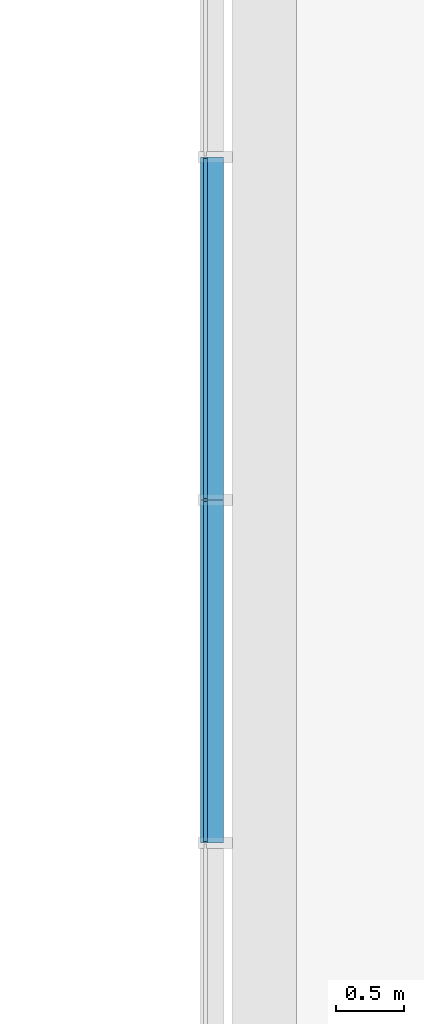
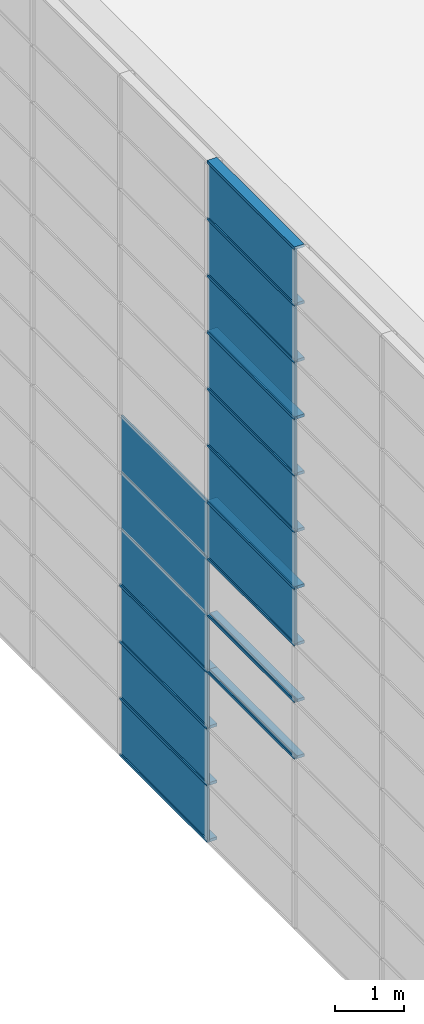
# One storey, part 13 of 105: 29 building element parts, 4 elements without a shape of their own.
"""IFC4 building model written with IfcOpenShell, lengths in millimetres."""

from ifc_helpers import new_model, entity, si_unit, converted_unit, derived_unit, direction, frame, origin_with_axes, place, context, subcontext, project, spatial, triangles, material, element, aggregate, save


model = new_model("IFC4")

# Units and contexts
model_context = context("Model", 3, precision=1e-05, world=origin_with_axes(), true_north=direction((0.0, 1.0)))
body_context = subcontext(model_context, "Body", "Model", "MODEL_VIEW")
ifc_project = project(units=[si_unit("LENGTHUNIT", "METRE", prefix="MILLI"), si_unit("AREAUNIT", "SQUARE_METRE"), si_unit("VOLUMEUNIT", "CUBIC_METRE"), converted_unit("PLANEANGLEUNIT", "DEGREE", entity("IfcLengthMeasure", 0.017453), si_unit("PLANEANGLEUNIT", "RADIAN"), dimensions=[0, 0, 0, 0, 0, 0, 0]), si_unit("SOLIDANGLEUNIT", "STERADIAN"), si_unit("MASSUNIT", "GRAM"), si_unit("TIMEUNIT", "SECOND"), si_unit("THERMODYNAMICTEMPERATUREUNIT", "DEGREE_CELSIUS"), si_unit("LUMINOUSINTENSITYUNIT", "LUMEN"), si_unit("POWERUNIT", "WATT"), derived_unit("THERMALTRANSMITTANCEUNIT", [(si_unit("POWERUNIT", "WATT"), 1), (si_unit("THERMODYNAMICTEMPERATUREUNIT", "KELVIN"), -1), (si_unit("AREAUNIT", "SQUARE_METRE"), -1)])], contexts=[model_context])

# Site, building, storey
site_placement = place(None, origin_with_axes())
site = spatial("IfcSite", under=ifc_project, at=site_placement, Name="Default Site", CompositionType="ELEMENT")
building_placement = place(site_placement, origin_with_axes())
building = spatial("IfcBuilding", under=site, at=building_placement, Name="Default Building", CompositionType="ELEMENT")
storey_placement = place(building_placement, origin_with_axes())
storey = spatial("IfcBuildingStorey", under=building, at=storey_placement, Name="OG - Story", CompositionType="ELEMENT", Elevation=0.0)

# Curtain wall, building element parts
curtain_wall_1_placement = place(storey_placement, origin_with_axes())
curtain_wall_1 = element("IfcCurtainWall", 1, at=curtain_wall_1_placement, inside=storey, Name="Fassade-003", PredefinedType="NOTDEFINED")
ifc_material_1 = material(Name="Normalglas")
building_element_part_1_placement = place(curtain_wall_1_placement, frame((31551.391327, -51326.104944, 0.0), z_axis=(0.0, 0.0, 1.0), x_axis=(1.0, 0.0, 0.0)))
building_element_part_1 = element("IfcBuildingElementPart", 2, at=building_element_part_1_placement, material=ifc_material_1, Name="Normalglas", PredefinedType="NOTDEFINED", context=body_context, shape_type="Tessellation", body=[
    triangles([(15.0, 21463.684, 995.0), (-14.999, 21463.684, 995.0), (-14.999, 18957.368, 995.0), (15.0, 18957.368, 995.0), (15.0, 21463.684, 5.0), (-14.999, 21463.684, 5.0), (-14.999, 18957.368, 5.0), (15.0, 18957.368, 5.0)], [[1, 2, 3], [1, 3, 4], [5, 6, 2], [5, 2, 1], [2, 6, 7], [2, 7, 3], [4, 3, 7], [4, 7, 8], [1, 4, 8], [1, 8, 5], [8, 7, 6], [8, 6, 5]], closed=False),
])
building_element_part_2_placement = place(curtain_wall_1_placement, frame((31551.391327, -51326.104944, 0.0), z_axis=(0.0, 0.0, 1.0), x_axis=(1.0, 0.0, 0.0)))
building_element_part_2 = element("IfcBuildingElementPart", 3, at=building_element_part_2_placement, material=ifc_material_1, Name="Normalglas", PredefinedType="NOTDEFINED", context=body_context, shape_type="Tessellation", body=[
    triangles([(15.0, 21463.684, 1995.0), (-14.999, 21463.684, 1995.0), (-14.999, 18957.368, 1995.0), (15.0, 18957.368, 1995.0), (15.0, 21463.684, 1005.0), (-14.999, 21463.684, 1005.0), (-14.999, 18957.368, 1005.0), (15.0, 18957.368, 1005.0)], [[1, 2, 3], [1, 3, 4], [5, 6, 2], [5, 2, 1], [2, 6, 7], [2, 7, 3], [4, 3, 7], [4, 7, 8], [1, 4, 8], [1, 8, 5], [8, 7, 6], [8, 6, 5]], closed=False),
])
building_element_part_3_placement = place(curtain_wall_1_placement, frame((31551.391327, -51326.104944, 0.0), z_axis=(0.0, 0.0, 1.0), x_axis=(1.0, 0.0, 0.0)))
building_element_part_3 = element("IfcBuildingElementPart", 4, at=building_element_part_3_placement, material=ifc_material_1, Name="Normalglas", PredefinedType="NOTDEFINED", context=body_context, shape_type="Tessellation", body=[
    triangles([(15.0, 21463.684, 2995.0), (-14.999, 21463.684, 2995.0), (-14.999, 18957.368, 2995.0), (15.0, 18957.368, 2995.0), (15.0, 21463.684, 2005.0), (-14.999, 21463.684, 2005.0), (-14.999, 18957.368, 2005.0), (15.0, 18957.368, 2005.0)], [[1, 2, 3], [1, 3, 4], [5, 6, 2], [5, 2, 1], [2, 6, 7], [2, 7, 3], [4, 3, 7], [4, 7, 8], [1, 4, 8], [1, 8, 5], [8, 7, 6], [8, 6, 5]], closed=False),
])
ifc_material_2 = material(Name="Blech")
building_element_part_4_placement = place(curtain_wall_1_placement, frame((31551.391327, -51326.104944, 0.0), z_axis=(0.0, 0.0, 1.0), x_axis=(1.0, 0.0, 0.0)))
building_element_part_4 = element("IfcBuildingElementPart", 5, at=building_element_part_4_placement, material=ifc_material_2, Name="Blech", PredefinedType="NOTDEFINED", context=body_context, shape_type="Tessellation", body=[
    triangles([(15.0, 21473.684, 25.0), (133.0, 21473.684, 25.0), (15.0, 21473.684, 5.0), (133.0, 21473.684, -24.999), (-14.999, 21473.684, 5.0), (-34.999, 21473.684, -24.999), (-34.999, 21473.684, 25.0), (-14.999, 21473.684, 25.0), (15.0, 18947.368, 5.0), (15.0, 18947.368, 25.0), (133.0, 18947.368, 25.0), (133.0, 18947.368, -24.999), (-34.999, 18947.368, -24.999), (-34.999, 18947.368, 25.0), (-14.999, 18947.368, 25.0), (-14.999, 18947.368, 5.0)], [[1, 2, 3], [3, 2, 4], [3, 4, 5], [5, 4, 6], [5, 6, 7], [5, 7, 8], [3, 9, 10], [3, 10, 1], [10, 11, 2], [10, 2, 1], [11, 12, 4], [11, 4, 2], [12, 13, 6], [12, 6, 4], [13, 14, 7], [13, 7, 6], [8, 7, 14], [8, 14, 15], [15, 16, 5], [15, 5, 8], [5, 16, 9], [5, 9, 3], [16, 9, 12], [16, 12, 13], [16, 13, 14], [16, 14, 15], [11, 12, 9], [11, 9, 10]], closed=False),
])
building_element_part_5_placement = place(curtain_wall_1_placement, frame((31551.391327, -51326.104944, 0.0), z_axis=(0.0, 0.0, 1.0), x_axis=(1.0, 0.0, 0.0)))
building_element_part_5 = element("IfcBuildingElementPart", 6, at=building_element_part_5_placement, material=ifc_material_2, Name="Blech", PredefinedType="NOTDEFINED", context=body_context, shape_type="Tessellation", body=[
    triangles([(-14.999, 21473.684, 1025.0), (-34.999, 21473.684, 1025.0), (-14.999, 21473.684, 1005.0), (-14.999, 21473.684, 995.0), (15.0, 21473.684, 1005.0), (133.0, 21473.684, 1025.0), (15.0, 21473.684, 1025.0), (-34.999, 21473.684, 975.0), (-14.999, 21473.684, 975.0), (15.0, 21473.684, 995.0), (15.0, 21473.684, 975.0), (133.0, 21473.684, 975.0), (15.0, 18947.368, 995.0), (-14.999, 18947.368, 995.0), (-14.999, 18947.368, 975.0), (-34.999, 18947.368, 975.0), (-34.999, 18947.368, 1025.0), (-14.999, 18947.368, 1025.0), (-14.999, 18947.368, 1005.0), (15.0, 18947.368, 1005.0), (15.0, 18947.368, 1025.0), (133.0, 18947.368, 1025.0), (133.0, 18947.368, 975.0), (15.0, 18947.368, 975.0)], [[1, 2, 3], [3, 2, 4], [3, 4, 5], [5, 4, 6], [5, 6, 7], [8, 9, 4], [8, 4, 2], [6, 4, 10], [6, 10, 11], [6, 11, 12], [10, 13, 14], [10, 14, 4], [4, 14, 15], [4, 15, 9], [15, 16, 8], [15, 8, 9], [8, 16, 17], [8, 17, 2], [18, 1, 2], [18, 2, 17], [1, 18, 19], [1, 19, 3], [5, 3, 19], [5, 19, 20], [7, 5, 20], [7, 20, 21], [7, 21, 22], [7, 22, 6], [6, 22, 23], [6, 23, 12], [11, 12, 23], [11, 23, 24], [11, 24, 13], [11, 13, 10], [21, 22, 20], [20, 22, 13], [20, 13, 19], [19, 13, 14], [19, 14, 17], [17, 14, 15], [17, 15, 16], [23, 24, 13], [23, 13, 22], [19, 17, 18]], closed=False),
])
building_element_part_6_placement = place(curtain_wall_1_placement, frame((31551.391327, -51326.104944, 0.0), z_axis=(0.0, 0.0, 1.0), x_axis=(1.0, 0.0, 0.0)))
building_element_part_6 = element("IfcBuildingElementPart", 7, at=building_element_part_6_placement, material=ifc_material_2, Name="Blech", PredefinedType="NOTDEFINED", context=body_context, shape_type="Tessellation", body=[
    triangles([(-14.999, 21473.684, 2025.0), (-34.999, 21473.684, 2025.0), (-14.999, 21473.684, 2005.0), (-14.999, 21473.684, 1995.0), (15.0, 21473.684, 2005.0), (133.0, 21473.684, 2025.0), (15.0, 21473.684, 2025.0), (-34.999, 21473.684, 1975.0), (-14.999, 21473.684, 1975.0), (15.0, 21473.684, 1995.0), (15.0, 21473.684, 1975.0), (133.0, 21473.684, 1975.0), (15.0, 18947.368, 1995.0), (-14.999, 18947.368, 1995.0), (-14.999, 18947.368, 1975.0), (-34.999, 18947.368, 1975.0), (-34.999, 18947.368, 2025.0), (-14.999, 18947.368, 2025.0), (-14.999, 18947.368, 2005.0), (15.0, 18947.368, 2005.0), (15.0, 18947.368, 2025.0), (133.0, 18947.368, 2025.0), (133.0, 18947.368, 1975.0), (15.0, 18947.368, 1975.0)], [[1, 2, 3], [3, 2, 4], [3, 4, 5], [5, 4, 6], [5, 6, 7], [8, 9, 4], [8, 4, 2], [6, 4, 10], [6, 10, 11], [6, 11, 12], [10, 13, 14], [10, 14, 4], [4, 14, 15], [4, 15, 9], [15, 16, 8], [15, 8, 9], [8, 16, 17], [8, 17, 2], [18, 1, 2], [18, 2, 17], [1, 18, 19], [1, 19, 3], [5, 3, 19], [5, 19, 20], [7, 5, 20], [7, 20, 21], [7, 21, 22], [7, 22, 6], [6, 22, 23], [6, 23, 12], [11, 12, 23], [11, 23, 24], [11, 24, 13], [11, 13, 10], [21, 22, 20], [20, 22, 13], [20, 13, 19], [19, 13, 14], [19, 14, 17], [17, 14, 15], [17, 15, 16], [23, 24, 13], [23, 13, 22], [19, 17, 18]], closed=False),
])
building_element_part_7_placement = place(curtain_wall_1_placement, frame((31551.391327, -51326.104944, 0.0), z_axis=(0.0, 0.0, 1.0), x_axis=(1.0, 0.0, 0.0)))
building_element_part_7 = element("IfcBuildingElementPart", 8, at=building_element_part_7_placement, material=ifc_material_2, Name="Blech", PredefinedType="NOTDEFINED", context=body_context, shape_type="Tessellation", body=[
    triangles([(-14.999, 21473.684, 2995.0), (15.0, 21473.684, 2995.0), (133.0, 21473.684, 3025.0), (-34.999, 21473.684, 3025.0), (-34.999, 21473.684, 2975.0), (-14.999, 21473.684, 2975.0), (15.0, 21473.684, 2975.0), (133.0, 21473.684, 2975.0), (15.0, 18947.368, 2995.0), (-14.999, 18947.368, 2995.0), (-14.999, 18947.368, 2975.0), (-34.999, 18947.368, 2975.0), (-34.999, 18947.368, 3025.0), (133.0, 18947.368, 3025.0), (133.0, 18947.368, 2975.0), (15.0, 18947.368, 2975.0)], [[1, 2, 3], [1, 3, 4], [1, 4, 5], [1, 5, 6], [7, 8, 3], [7, 3, 2], [1, 2, 9], [1, 9, 10], [11, 6, 1], [11, 1, 10], [6, 11, 12], [6, 12, 5], [13, 4, 5], [13, 5, 12], [14, 3, 4], [14, 4, 13], [15, 8, 3], [15, 3, 14], [16, 7, 8], [16, 8, 15], [2, 7, 16], [2, 16, 9], [10, 9, 14], [10, 14, 13], [10, 13, 12], [10, 12, 11], [16, 15, 14], [16, 14, 9]], closed=False),
])
aggregate(curtain_wall_1, [building_element_part_1, building_element_part_2, building_element_part_3, building_element_part_4, building_element_part_5, building_element_part_6, building_element_part_7])

curtain_wall_2_placement = place(storey_placement, origin_with_axes())
curtain_wall_2 = element("IfcCurtainWall", 9, at=curtain_wall_2_placement, inside=storey, Name="Fassade-003", PredefinedType="NOTDEFINED")
building_element_part_8_placement = place(curtain_wall_2_placement, frame((31551.391327, -51326.104944, 3000.0), z_axis=(0.0, 0.0, 1.0), x_axis=(1.0, 0.0, 0.0)))
building_element_part_8 = element("IfcBuildingElementPart", 10, at=building_element_part_8_placement, material=ifc_material_1, Name="Normalglas", PredefinedType="NOTDEFINED", context=body_context, shape_type="Tessellation", body=[
    triangles([(15.0, 21463.684, 995.0), (-14.999, 21463.684, 995.0), (-14.999, 18957.368, 995.0), (15.0, 18957.368, 995.0), (15.0, 21463.684, 5.0), (-14.999, 21463.684, 5.0), (-14.999, 18957.368, 5.0), (15.0, 18957.368, 5.0)], [[1, 2, 3], [1, 3, 4], [5, 6, 2], [5, 2, 1], [2, 6, 7], [2, 7, 3], [4, 3, 7], [4, 7, 8], [1, 4, 8], [1, 8, 5], [8, 7, 6], [8, 6, 5]], closed=False),
])
building_element_part_9_placement = place(curtain_wall_2_placement, frame((31551.391327, -51326.104944, 3000.0), z_axis=(0.0, 0.0, 1.0), x_axis=(1.0, 0.0, 0.0)))
building_element_part_9 = element("IfcBuildingElementPart", 11, at=building_element_part_9_placement, material=ifc_material_1, Name="Normalglas", PredefinedType="NOTDEFINED", context=body_context, shape_type="Tessellation", body=[
    triangles([(15.0, 21463.684, 1995.0), (-14.999, 21463.684, 1995.0), (-14.999, 18957.368, 1995.0), (15.0, 18957.368, 1995.0), (15.0, 21463.684, 1005.0), (-14.999, 21463.684, 1005.0), (-14.999, 18957.368, 1005.0), (15.0, 18957.368, 1005.0)], [[1, 2, 3], [1, 3, 4], [5, 6, 2], [5, 2, 1], [2, 6, 7], [2, 7, 3], [4, 3, 7], [4, 7, 8], [1, 4, 8], [1, 8, 5], [8, 7, 6], [8, 6, 5]], closed=False),
])
building_element_part_10_placement = place(curtain_wall_2_placement, frame((31551.391327, -51326.104944, 3000.0), z_axis=(0.0, 0.0, 1.0), x_axis=(1.0, 0.0, 0.0)))
building_element_part_10 = element("IfcBuildingElementPart", 12, at=building_element_part_10_placement, material=ifc_material_1, Name="Normalglas", PredefinedType="NOTDEFINED", context=body_context, shape_type="Tessellation", body=[
    triangles([(15.0, 18937.368, 2995.0), (-14.999, 18937.368, 2995.0), (-14.999, 16431.053, 2995.0), (15.0, 16431.053, 2995.0), (15.0, 18937.368, 2005.0), (-14.999, 18937.368, 2005.0), (-14.999, 16431.053, 2005.0), (15.0, 16431.053, 2005.0)], [[1, 2, 3], [1, 3, 4], [5, 6, 2], [5, 2, 1], [2, 6, 7], [2, 7, 3], [4, 3, 7], [4, 7, 8], [1, 4, 8], [1, 8, 5], [8, 7, 6], [8, 6, 5]], closed=False),
])
building_element_part_11_placement = place(curtain_wall_2_placement, frame((31551.391327, -51326.104944, 3000.0), z_axis=(0.0, 0.0, 1.0), x_axis=(1.0, 0.0, 0.0)))
building_element_part_11 = element("IfcBuildingElementPart", 13, at=building_element_part_11_placement, material=ifc_material_1, Name="Normalglas", PredefinedType="NOTDEFINED", context=body_context, shape_type="Tessellation", body=[
    triangles([(15.0, 21463.684, 2995.0), (-14.999, 21463.684, 2995.0), (-14.999, 18957.368, 2995.0), (15.0, 18957.368, 2995.0), (15.0, 21463.684, 2005.0), (-14.999, 21463.684, 2005.0), (-14.999, 18957.368, 2005.0), (15.0, 18957.368, 2005.0)], [[1, 2, 3], [1, 3, 4], [5, 6, 2], [5, 2, 1], [2, 6, 7], [2, 7, 3], [4, 3, 7], [4, 7, 8], [1, 4, 8], [1, 8, 5], [8, 7, 6], [8, 6, 5]], closed=False),
])
building_element_part_12_placement = place(curtain_wall_2_placement, frame((31551.391327, -51326.104944, 3000.0), z_axis=(0.0, 0.0, 1.0), x_axis=(1.0, 0.0, 0.0)))
building_element_part_12 = element("IfcBuildingElementPart", 14, at=building_element_part_12_placement, material=ifc_material_2, Name="Blech", PredefinedType="NOTDEFINED", context=body_context, shape_type="Tessellation", body=[
    triangles([(15.0, 18947.368, 25.0), (133.0, 18947.368, 25.0), (15.0, 18947.368, 5.0), (133.0, 18947.368, -24.999), (-14.999, 18947.368, 5.0), (-34.999, 18947.368, -24.999), (-34.999, 18947.368, 25.0), (-14.999, 18947.368, 25.0), (15.0, 16421.053, 5.0), (15.0, 16421.053, 25.0), (133.0, 16421.053, 25.0), (133.0, 16421.053, -24.999), (-34.999, 16421.053, -24.999), (-34.999, 16421.053, 25.0), (-14.999, 16421.053, 25.0), (-14.999, 16421.053, 5.0)], [[1, 2, 3], [3, 2, 4], [3, 4, 5], [5, 4, 6], [5, 6, 7], [5, 7, 8], [3, 9, 10], [3, 10, 1], [10, 11, 2], [10, 2, 1], [11, 12, 4], [11, 4, 2], [12, 13, 6], [12, 6, 4], [13, 14, 7], [13, 7, 6], [8, 7, 14], [8, 14, 15], [15, 16, 5], [15, 5, 8], [5, 16, 9], [5, 9, 3], [16, 9, 12], [16, 12, 13], [16, 13, 14], [16, 14, 15], [11, 12, 9], [11, 9, 10]], closed=False),
])
building_element_part_13_placement = place(curtain_wall_2_placement, frame((31551.391327, -51326.104944, 3000.0), z_axis=(0.0, 0.0, 1.0), x_axis=(1.0, 0.0, 0.0)))
building_element_part_13 = element("IfcBuildingElementPart", 15, at=building_element_part_13_placement, material=ifc_material_2, Name="Blech", PredefinedType="NOTDEFINED", context=body_context, shape_type="Tessellation", body=[
    triangles([(-14.999, 18947.368, 1025.0), (-34.999, 18947.368, 1025.0), (-14.999, 18947.368, 1005.0), (-14.999, 18947.368, 995.0), (15.0, 18947.368, 1005.0), (133.0, 18947.368, 1025.0), (15.0, 18947.368, 1025.0), (-34.999, 18947.368, 975.0), (-14.999, 18947.368, 975.0), (15.0, 18947.368, 995.0), (15.0, 18947.368, 975.0), (133.0, 18947.368, 975.0), (15.0, 16421.053, 995.0), (-14.999, 16421.053, 995.0), (-14.999, 16421.053, 975.0), (-34.999, 16421.053, 975.0), (-34.999, 16421.053, 1025.0), (-14.999, 16421.053, 1025.0), (-14.999, 16421.053, 1005.0), (15.0, 16421.053, 1005.0), (15.0, 16421.053, 1025.0), (133.0, 16421.053, 1025.0), (133.0, 16421.053, 975.0), (15.0, 16421.053, 975.0)], [[1, 2, 3], [3, 2, 4], [3, 4, 5], [5, 4, 6], [5, 6, 7], [8, 9, 4], [8, 4, 2], [6, 4, 10], [6, 10, 11], [6, 11, 12], [10, 13, 14], [10, 14, 4], [4, 14, 15], [4, 15, 9], [15, 16, 8], [15, 8, 9], [8, 16, 17], [8, 17, 2], [18, 1, 2], [18, 2, 17], [1, 18, 19], [1, 19, 3], [5, 3, 19], [5, 19, 20], [7, 5, 20], [7, 20, 21], [7, 21, 22], [7, 22, 6], [6, 22, 23], [6, 23, 12], [11, 12, 23], [11, 23, 24], [11, 24, 13], [11, 13, 10], [21, 22, 20], [20, 22, 13], [20, 13, 19], [19, 13, 14], [19, 14, 17], [17, 14, 15], [17, 15, 16], [23, 24, 13], [23, 13, 22], [19, 17, 18]], closed=False),
])
building_element_part_14_placement = place(curtain_wall_2_placement, frame((31551.391327, -51326.104944, 3000.0), z_axis=(0.0, 0.0, 1.0), x_axis=(1.0, 0.0, 0.0)))
building_element_part_14 = element("IfcBuildingElementPart", 16, at=building_element_part_14_placement, material=ifc_material_2, Name="Blech", PredefinedType="NOTDEFINED", context=body_context, shape_type="Tessellation", body=[
    triangles([(-14.999, 18947.368, 2025.0), (-34.999, 18947.368, 2025.0), (-14.999, 18947.368, 2005.0), (-14.999, 18947.368, 1995.0), (15.0, 18947.368, 2005.0), (133.0, 18947.368, 2025.0), (15.0, 18947.368, 2025.0), (-34.999, 18947.368, 1975.0), (-14.999, 18947.368, 1975.0), (15.0, 18947.368, 1995.0), (15.0, 18947.368, 1975.0), (133.0, 18947.368, 1975.0), (15.0, 16421.053, 1995.0), (-14.999, 16421.053, 1995.0), (-14.999, 16421.053, 1975.0), (-34.999, 16421.053, 1975.0), (-34.999, 16421.053, 2025.0), (-14.999, 16421.053, 2025.0), (-14.999, 16421.053, 2005.0), (15.0, 16421.053, 2005.0), (15.0, 16421.053, 2025.0), (133.0, 16421.053, 2025.0), (133.0, 16421.053, 1975.0), (15.0, 16421.053, 1975.0)], [[1, 2, 3], [3, 2, 4], [3, 4, 5], [5, 4, 6], [5, 6, 7], [8, 9, 4], [8, 4, 2], [6, 4, 10], [6, 10, 11], [6, 11, 12], [10, 13, 14], [10, 14, 4], [4, 14, 15], [4, 15, 9], [15, 16, 8], [15, 8, 9], [8, 16, 17], [8, 17, 2], [18, 1, 2], [18, 2, 17], [1, 18, 19], [1, 19, 3], [5, 3, 19], [5, 19, 20], [7, 5, 20], [7, 20, 21], [7, 21, 22], [7, 22, 6], [6, 22, 23], [6, 23, 12], [11, 12, 23], [11, 23, 24], [11, 24, 13], [11, 13, 10], [21, 22, 20], [20, 22, 13], [20, 13, 19], [19, 13, 14], [19, 14, 17], [17, 14, 15], [17, 15, 16], [23, 24, 13], [23, 13, 22], [19, 17, 18]], closed=False),
])
building_element_part_15_placement = place(curtain_wall_2_placement, frame((31551.391327, -51326.104944, 3000.0), z_axis=(0.0, 0.0, 1.0), x_axis=(1.0, 0.0, 0.0)))
building_element_part_15 = element("IfcBuildingElementPart", 17, at=building_element_part_15_placement, material=ifc_material_2, Name="Blech", PredefinedType="NOTDEFINED", context=body_context, shape_type="Tessellation", body=[
    triangles([(-14.999, 18947.368, 2995.0), (15.0, 18947.368, 2995.0), (133.0, 18947.368, 3025.0), (-34.999, 18947.368, 3025.0), (-34.999, 18947.368, 2975.0), (-14.999, 18947.368, 2975.0), (15.0, 18947.368, 2975.0), (133.0, 18947.368, 2975.0), (15.0, 16421.053, 2995.0), (-14.999, 16421.053, 2995.0), (-14.999, 16421.053, 2975.0), (-34.999, 16421.053, 2975.0), (-34.999, 16421.053, 3025.0), (133.0, 16421.053, 3025.0), (133.0, 16421.053, 2975.0), (15.0, 16421.053, 2975.0)], [[1, 2, 3], [1, 3, 4], [1, 4, 5], [1, 5, 6], [7, 8, 3], [7, 3, 2], [1, 2, 9], [1, 9, 10], [11, 6, 1], [11, 1, 10], [6, 11, 12], [6, 12, 5], [13, 4, 5], [13, 5, 12], [14, 3, 4], [14, 4, 13], [15, 8, 3], [15, 3, 14], [16, 7, 8], [16, 8, 15], [2, 7, 16], [2, 16, 9], [10, 9, 14], [10, 14, 13], [10, 13, 12], [10, 12, 11], [16, 15, 14], [16, 14, 9]], closed=False),
])
aggregate(curtain_wall_2, [building_element_part_8, building_element_part_9, building_element_part_10, building_element_part_11, building_element_part_12, building_element_part_13, building_element_part_14, building_element_part_15])

curtain_wall_3_placement = place(storey_placement, origin_with_axes())
curtain_wall_3 = element("IfcCurtainWall", 18, at=curtain_wall_3_placement, inside=storey, Name="Fassade-003", PredefinedType="NOTDEFINED")
building_element_part_16_placement = place(curtain_wall_3_placement, frame((31551.391327, -51326.104944, 6000.0), z_axis=(0.0, 0.0, 1.0), x_axis=(1.0, 0.0, 0.0)))
building_element_part_16 = element("IfcBuildingElementPart", 19, at=building_element_part_16_placement, material=ifc_material_1, Name="Normalglas", PredefinedType="NOTDEFINED", context=body_context, shape_type="Tessellation", body=[
    triangles([(15.0, 18937.368, 995.0), (-14.999, 18937.368, 995.0), (-14.999, 16431.053, 995.0), (15.0, 16431.053, 995.0), (15.0, 18937.368, 5.0), (-14.999, 18937.368, 5.0), (-14.999, 16431.053, 5.0), (15.0, 16431.053, 5.0)], [[1, 2, 3], [1, 3, 4], [5, 6, 2], [5, 2, 1], [2, 6, 7], [2, 7, 3], [4, 3, 7], [4, 7, 8], [1, 4, 8], [1, 8, 5], [8, 7, 6], [8, 6, 5]], closed=False),
])
building_element_part_17_placement = place(curtain_wall_3_placement, frame((31551.391327, -51326.104944, 6000.0), z_axis=(0.0, 0.0, 1.0), x_axis=(1.0, 0.0, 0.0)))
building_element_part_17 = element("IfcBuildingElementPart", 20, at=building_element_part_17_placement, material=ifc_material_1, Name="Normalglas", PredefinedType="NOTDEFINED", context=body_context, shape_type="Tessellation", body=[
    triangles([(15.0, 18937.368, 1995.0), (-14.999, 18937.368, 1995.0), (-14.999, 16431.053, 1995.0), (15.0, 16431.053, 1995.0), (15.0, 18937.368, 1005.0), (-14.999, 18937.368, 1005.0), (-14.999, 16431.053, 1005.0), (15.0, 16431.053, 1005.0)], [[1, 2, 3], [1, 3, 4], [5, 6, 2], [5, 2, 1], [2, 6, 7], [2, 7, 3], [4, 3, 7], [4, 7, 8], [1, 4, 8], [1, 8, 5], [8, 7, 6], [8, 6, 5]], closed=False),
])
building_element_part_18_placement = place(curtain_wall_3_placement, frame((31551.391327, -51326.104944, 6000.0), z_axis=(0.0, 0.0, 1.0), x_axis=(1.0, 0.0, 0.0)))
building_element_part_18 = element("IfcBuildingElementPart", 21, at=building_element_part_18_placement, material=ifc_material_1, Name="Normalglas", PredefinedType="NOTDEFINED", context=body_context, shape_type="Tessellation", body=[
    triangles([(15.0, 18937.368, 2995.0), (-14.999, 18937.368, 2995.0), (-14.999, 16431.053, 2995.0), (15.0, 16431.053, 2995.0), (15.0, 18937.368, 2005.0), (-14.999, 18937.368, 2005.0), (-14.999, 16431.053, 2005.0), (15.0, 16431.053, 2005.0)], [[1, 2, 3], [1, 3, 4], [5, 6, 2], [5, 2, 1], [2, 6, 7], [2, 7, 3], [4, 3, 7], [4, 7, 8], [1, 4, 8], [1, 8, 5], [8, 7, 6], [8, 6, 5]], closed=False),
])
building_element_part_19_placement = place(curtain_wall_3_placement, frame((31551.391327, -51326.104944, 6000.0), z_axis=(0.0, 0.0, 1.0), x_axis=(1.0, 0.0, 0.0)))
building_element_part_19 = element("IfcBuildingElementPart", 22, at=building_element_part_19_placement, material=ifc_material_2, Name="Blech", PredefinedType="NOTDEFINED", context=body_context, shape_type="Tessellation", body=[
    triangles([(15.0, 18947.368, 25.0), (133.0, 18947.368, 25.0), (15.0, 18947.368, 5.0), (133.0, 18947.368, -24.999), (-14.999, 18947.368, 5.0), (-34.999, 18947.368, -24.999), (-34.999, 18947.368, 25.0), (-14.999, 18947.368, 25.0), (15.0, 16421.053, 5.0), (15.0, 16421.053, 25.0), (133.0, 16421.053, 25.0), (133.0, 16421.053, -24.999), (-34.999, 16421.053, -24.999), (-34.999, 16421.053, 25.0), (-14.999, 16421.053, 25.0), (-14.999, 16421.053, 5.0)], [[1, 2, 3], [3, 2, 4], [3, 4, 5], [5, 4, 6], [5, 6, 7], [5, 7, 8], [3, 9, 10], [3, 10, 1], [10, 11, 2], [10, 2, 1], [11, 12, 4], [11, 4, 2], [12, 13, 6], [12, 6, 4], [13, 14, 7], [13, 7, 6], [8, 7, 14], [8, 14, 15], [15, 16, 5], [15, 5, 8], [5, 16, 9], [5, 9, 3], [16, 9, 12], [16, 12, 13], [16, 13, 14], [16, 14, 15], [11, 12, 9], [11, 9, 10]], closed=False),
])
building_element_part_20_placement = place(curtain_wall_3_placement, frame((31551.391327, -51326.104944, 6000.0), z_axis=(0.0, 0.0, 1.0), x_axis=(1.0, 0.0, 0.0)))
building_element_part_20 = element("IfcBuildingElementPart", 23, at=building_element_part_20_placement, material=ifc_material_2, Name="Blech", PredefinedType="NOTDEFINED", context=body_context, shape_type="Tessellation", body=[
    triangles([(-14.999, 18947.368, 1025.0), (-34.999, 18947.368, 1025.0), (-14.999, 18947.368, 1005.0), (-14.999, 18947.368, 995.0), (15.0, 18947.368, 1005.0), (133.0, 18947.368, 1025.0), (15.0, 18947.368, 1025.0), (-34.999, 18947.368, 975.0), (-14.999, 18947.368, 975.0), (15.0, 18947.368, 995.0), (15.0, 18947.368, 975.0), (133.0, 18947.368, 975.0), (15.0, 16421.053, 995.0), (-14.999, 16421.053, 995.0), (-14.999, 16421.053, 975.0), (-34.999, 16421.053, 975.0), (-34.999, 16421.053, 1025.0), (-14.999, 16421.053, 1025.0), (-14.999, 16421.053, 1005.0), (15.0, 16421.053, 1005.0), (15.0, 16421.053, 1025.0), (133.0, 16421.053, 1025.0), (133.0, 16421.053, 975.0), (15.0, 16421.053, 975.0)], [[1, 2, 3], [3, 2, 4], [3, 4, 5], [5, 4, 6], [5, 6, 7], [8, 9, 4], [8, 4, 2], [6, 4, 10], [6, 10, 11], [6, 11, 12], [10, 13, 14], [10, 14, 4], [4, 14, 15], [4, 15, 9], [15, 16, 8], [15, 8, 9], [8, 16, 17], [8, 17, 2], [18, 1, 2], [18, 2, 17], [1, 18, 19], [1, 19, 3], [5, 3, 19], [5, 19, 20], [7, 5, 20], [7, 20, 21], [7, 21, 22], [7, 22, 6], [6, 22, 23], [6, 23, 12], [11, 12, 23], [11, 23, 24], [11, 24, 13], [11, 13, 10], [21, 22, 20], [20, 22, 13], [20, 13, 19], [19, 13, 14], [19, 14, 17], [17, 14, 15], [17, 15, 16], [23, 24, 13], [23, 13, 22], [19, 17, 18]], closed=False),
])
building_element_part_21_placement = place(curtain_wall_3_placement, frame((31551.391327, -51326.104944, 6000.0), z_axis=(0.0, 0.0, 1.0), x_axis=(1.0, 0.0, 0.0)))
building_element_part_21 = element("IfcBuildingElementPart", 24, at=building_element_part_21_placement, material=ifc_material_2, Name="Blech", PredefinedType="NOTDEFINED", context=body_context, shape_type="Tessellation", body=[
    triangles([(-14.999, 18947.368, 2025.0), (-34.999, 18947.368, 2025.0), (-14.999, 18947.368, 2005.0), (-14.999, 18947.368, 1995.0), (15.0, 18947.368, 2005.0), (133.0, 18947.368, 2025.0), (15.0, 18947.368, 2025.0), (-34.999, 18947.368, 1975.0), (-14.999, 18947.368, 1975.0), (15.0, 18947.368, 1995.0), (15.0, 18947.368, 1975.0), (133.0, 18947.368, 1975.0), (15.0, 16421.053, 1995.0), (-14.999, 16421.053, 1995.0), (-14.999, 16421.053, 1975.0), (-34.999, 16421.053, 1975.0), (-34.999, 16421.053, 2025.0), (-14.999, 16421.053, 2025.0), (-14.999, 16421.053, 2005.0), (15.0, 16421.053, 2005.0), (15.0, 16421.053, 2025.0), (133.0, 16421.053, 2025.0), (133.0, 16421.053, 1975.0), (15.0, 16421.053, 1975.0)], [[1, 2, 3], [3, 2, 4], [3, 4, 5], [5, 4, 6], [5, 6, 7], [8, 9, 4], [8, 4, 2], [6, 4, 10], [6, 10, 11], [6, 11, 12], [10, 13, 14], [10, 14, 4], [4, 14, 15], [4, 15, 9], [15, 16, 8], [15, 8, 9], [8, 16, 17], [8, 17, 2], [18, 1, 2], [18, 2, 17], [1, 18, 19], [1, 19, 3], [5, 3, 19], [5, 19, 20], [7, 5, 20], [7, 20, 21], [7, 21, 22], [7, 22, 6], [6, 22, 23], [6, 23, 12], [11, 12, 23], [11, 23, 24], [11, 24, 13], [11, 13, 10], [21, 22, 20], [20, 22, 13], [20, 13, 19], [19, 13, 14], [19, 14, 17], [17, 14, 15], [17, 15, 16], [23, 24, 13], [23, 13, 22], [19, 17, 18]], closed=False),
])
building_element_part_22_placement = place(curtain_wall_3_placement, frame((31551.391327, -51326.104944, 6000.0), z_axis=(0.0, 0.0, 1.0), x_axis=(1.0, 0.0, 0.0)))
building_element_part_22 = element("IfcBuildingElementPart", 25, at=building_element_part_22_placement, material=ifc_material_2, Name="Blech", PredefinedType="NOTDEFINED", context=body_context, shape_type="Tessellation", body=[
    triangles([(-14.999, 18947.368, 2995.0), (15.0, 18947.368, 2995.0), (133.0, 18947.368, 3025.0), (-34.999, 18947.368, 3025.0), (-34.999, 18947.368, 2975.0), (-14.999, 18947.368, 2975.0), (15.0, 18947.368, 2975.0), (133.0, 18947.368, 2975.0), (15.0, 16421.053, 2995.0), (-14.999, 16421.053, 2995.0), (-14.999, 16421.053, 2975.0), (-34.999, 16421.053, 2975.0), (-34.999, 16421.053, 3025.0), (133.0, 16421.053, 3025.0), (133.0, 16421.053, 2975.0), (15.0, 16421.053, 2975.0)], [[1, 2, 3], [1, 3, 4], [1, 4, 5], [1, 5, 6], [7, 8, 3], [7, 3, 2], [1, 2, 9], [1, 9, 10], [11, 6, 1], [11, 1, 10], [6, 11, 12], [6, 12, 5], [13, 4, 5], [13, 5, 12], [14, 3, 4], [14, 4, 13], [15, 8, 3], [15, 3, 14], [16, 7, 8], [16, 8, 15], [2, 7, 16], [2, 16, 9], [10, 9, 14], [10, 14, 13], [10, 13, 12], [10, 12, 11], [16, 15, 14], [16, 14, 9]], closed=False),
])
aggregate(curtain_wall_3, [building_element_part_16, building_element_part_17, building_element_part_18, building_element_part_19, building_element_part_20, building_element_part_21, building_element_part_22])

curtain_wall_4_placement = place(storey_placement, origin_with_axes())
curtain_wall_4 = element("IfcCurtainWall", 26, at=curtain_wall_4_placement, inside=storey, Name="Fassade-003", PredefinedType="NOTDEFINED")
building_element_part_23_placement = place(curtain_wall_4_placement, frame((31551.391327, -51326.104944, 9000.0), z_axis=(0.0, 0.0, 1.0), x_axis=(1.0, 0.0, 0.0)))
building_element_part_23 = element("IfcBuildingElementPart", 27, at=building_element_part_23_placement, material=ifc_material_1, Name="Normalglas", PredefinedType="NOTDEFINED", context=body_context, shape_type="Tessellation", body=[
    triangles([(15.0, 18937.368, 995.0), (-14.999, 18937.368, 995.0), (-14.999, 16431.053, 995.0), (15.0, 16431.053, 995.0), (15.0, 18937.368, 5.0), (-14.999, 18937.368, 5.0), (-14.999, 16431.053, 5.0), (15.0, 16431.053, 5.0)], [[1, 2, 3], [1, 3, 4], [5, 6, 2], [5, 2, 1], [2, 6, 7], [2, 7, 3], [4, 3, 7], [4, 7, 8], [1, 4, 8], [1, 8, 5], [8, 7, 6], [8, 6, 5]], closed=False),
])
building_element_part_24_placement = place(curtain_wall_4_placement, frame((31551.391327, -51326.104944, 9000.0), z_axis=(0.0, 0.0, 1.0), x_axis=(1.0, 0.0, 0.0)))
building_element_part_24 = element("IfcBuildingElementPart", 28, at=building_element_part_24_placement, material=ifc_material_1, Name="Normalglas", PredefinedType="NOTDEFINED", context=body_context, shape_type="Tessellation", body=[
    triangles([(15.0, 18937.368, 1995.0), (-14.999, 18937.368, 1995.0), (-14.999, 16431.053, 1995.0), (15.0, 16431.053, 1995.0), (15.0, 18937.368, 1005.0), (-14.999, 18937.368, 1005.0), (-14.999, 16431.053, 1005.0), (15.0, 16431.053, 1005.0)], [[1, 2, 3], [1, 3, 4], [5, 6, 2], [5, 2, 1], [2, 6, 7], [2, 7, 3], [4, 3, 7], [4, 7, 8], [1, 4, 8], [1, 8, 5], [8, 7, 6], [8, 6, 5]], closed=False),
])
building_element_part_25_placement = place(curtain_wall_4_placement, frame((31551.391327, -51326.104944, 9000.0), z_axis=(0.0, 0.0, 1.0), x_axis=(1.0, 0.0, 0.0)))
building_element_part_25 = element("IfcBuildingElementPart", 29, at=building_element_part_25_placement, material=ifc_material_1, Name="Normalglas", PredefinedType="NOTDEFINED", context=body_context, shape_type="Tessellation", body=[
    triangles([(15.0, 18937.368, 2995.0), (-14.999, 18937.368, 2995.0), (-14.999, 16431.053, 2995.0), (15.0, 16431.053, 2995.0), (15.0, 18937.368, 2005.0), (-14.999, 18937.368, 2005.0), (-14.999, 16431.053, 2005.0), (15.0, 16431.053, 2005.0)], [[1, 2, 3], [1, 3, 4], [5, 6, 2], [5, 2, 1], [2, 6, 7], [2, 7, 3], [4, 3, 7], [4, 7, 8], [1, 4, 8], [1, 8, 5], [8, 7, 6], [8, 6, 5]], closed=False),
])
building_element_part_26_placement = place(curtain_wall_4_placement, frame((31551.391327, -51326.104944, 9000.0), z_axis=(0.0, 0.0, 1.0), x_axis=(1.0, 0.0, 0.0)))
building_element_part_26 = element("IfcBuildingElementPart", 30, at=building_element_part_26_placement, material=ifc_material_2, Name="Blech", PredefinedType="NOTDEFINED", context=body_context, shape_type="Tessellation", body=[
    triangles([(15.0, 18947.368, 25.0), (133.0, 18947.368, 25.0), (15.0, 18947.368, 5.0), (133.0, 18947.368, -24.999), (-14.999, 18947.368, 5.0), (-34.999, 18947.368, -24.999), (-34.999, 18947.368, 25.0), (-14.999, 18947.368, 25.0), (15.0, 16421.053, 5.0), (15.0, 16421.053, 25.0), (133.0, 16421.053, 25.0), (133.0, 16421.053, -24.999), (-34.999, 16421.053, -24.999), (-34.999, 16421.053, 25.0), (-14.999, 16421.053, 25.0), (-14.999, 16421.053, 5.0)], [[1, 2, 3], [3, 2, 4], [3, 4, 5], [5, 4, 6], [5, 6, 7], [5, 7, 8], [3, 9, 10], [3, 10, 1], [10, 11, 2], [10, 2, 1], [11, 12, 4], [11, 4, 2], [12, 13, 6], [12, 6, 4], [13, 14, 7], [13, 7, 6], [8, 7, 14], [8, 14, 15], [15, 16, 5], [15, 5, 8], [5, 16, 9], [5, 9, 3], [16, 9, 12], [16, 12, 13], [16, 13, 14], [16, 14, 15], [11, 12, 9], [11, 9, 10]], closed=False),
])
building_element_part_27_placement = place(curtain_wall_4_placement, frame((31551.391327, -51326.104944, 9000.0), z_axis=(0.0, 0.0, 1.0), x_axis=(1.0, 0.0, 0.0)))
building_element_part_27 = element("IfcBuildingElementPart", 31, at=building_element_part_27_placement, material=ifc_material_2, Name="Blech", PredefinedType="NOTDEFINED", context=body_context, shape_type="Tessellation", body=[
    triangles([(-14.999, 18947.368, 1025.0), (-34.999, 18947.368, 1025.0), (-14.999, 18947.368, 1005.0), (-14.999, 18947.368, 995.0), (15.0, 18947.368, 1005.0), (133.0, 18947.368, 1025.0), (15.0, 18947.368, 1025.0), (-34.999, 18947.368, 975.0), (-14.999, 18947.368, 975.0), (15.0, 18947.368, 995.0), (15.0, 18947.368, 975.0), (133.0, 18947.368, 975.0), (15.0, 16421.053, 995.0), (-14.999, 16421.053, 995.0), (-14.999, 16421.053, 975.0), (-34.999, 16421.053, 975.0), (-34.999, 16421.053, 1025.0), (-14.999, 16421.053, 1025.0), (-14.999, 16421.053, 1005.0), (15.0, 16421.053, 1005.0), (15.0, 16421.053, 1025.0), (133.0, 16421.053, 1025.0), (133.0, 16421.053, 975.0), (15.0, 16421.053, 975.0)], [[1, 2, 3], [3, 2, 4], [3, 4, 5], [5, 4, 6], [5, 6, 7], [8, 9, 4], [8, 4, 2], [6, 4, 10], [6, 10, 11], [6, 11, 12], [10, 13, 14], [10, 14, 4], [4, 14, 15], [4, 15, 9], [15, 16, 8], [15, 8, 9], [8, 16, 17], [8, 17, 2], [18, 1, 2], [18, 2, 17], [1, 18, 19], [1, 19, 3], [5, 3, 19], [5, 19, 20], [7, 5, 20], [7, 20, 21], [7, 21, 22], [7, 22, 6], [6, 22, 23], [6, 23, 12], [11, 12, 23], [11, 23, 24], [11, 24, 13], [11, 13, 10], [21, 22, 20], [20, 22, 13], [20, 13, 19], [19, 13, 14], [19, 14, 17], [17, 14, 15], [17, 15, 16], [23, 24, 13], [23, 13, 22], [19, 17, 18]], closed=False),
])
building_element_part_28_placement = place(curtain_wall_4_placement, frame((31551.391327, -51326.104944, 9000.0), z_axis=(0.0, 0.0, 1.0), x_axis=(1.0, 0.0, 0.0)))
building_element_part_28 = element("IfcBuildingElementPart", 32, at=building_element_part_28_placement, material=ifc_material_2, Name="Blech", PredefinedType="NOTDEFINED", context=body_context, shape_type="Tessellation", body=[
    triangles([(-14.999, 18947.368, 2025.0), (-34.999, 18947.368, 2025.0), (-14.999, 18947.368, 2005.0), (-14.999, 18947.368, 1995.0), (15.0, 18947.368, 2005.0), (133.0, 18947.368, 2025.0), (15.0, 18947.368, 2025.0), (-34.999, 18947.368, 1975.0), (-14.999, 18947.368, 1975.0), (15.0, 18947.368, 1995.0), (15.0, 18947.368, 1975.0), (133.0, 18947.368, 1975.0), (15.0, 16421.053, 1995.0), (-14.999, 16421.053, 1995.0), (-14.999, 16421.053, 1975.0), (-34.999, 16421.053, 1975.0), (-34.999, 16421.053, 2025.0), (-14.999, 16421.053, 2025.0), (-14.999, 16421.053, 2005.0), (15.0, 16421.053, 2005.0), (15.0, 16421.053, 2025.0), (133.0, 16421.053, 2025.0), (133.0, 16421.053, 1975.0), (15.0, 16421.053, 1975.0)], [[1, 2, 3], [3, 2, 4], [3, 4, 5], [5, 4, 6], [5, 6, 7], [8, 9, 4], [8, 4, 2], [6, 4, 10], [6, 10, 11], [6, 11, 12], [10, 13, 14], [10, 14, 4], [4, 14, 15], [4, 15, 9], [15, 16, 8], [15, 8, 9], [8, 16, 17], [8, 17, 2], [18, 1, 2], [18, 2, 17], [1, 18, 19], [1, 19, 3], [5, 3, 19], [5, 19, 20], [7, 5, 20], [7, 20, 21], [7, 21, 22], [7, 22, 6], [6, 22, 23], [6, 23, 12], [11, 12, 23], [11, 23, 24], [11, 24, 13], [11, 13, 10], [21, 22, 20], [20, 22, 13], [20, 13, 19], [19, 13, 14], [19, 14, 17], [17, 14, 15], [17, 15, 16], [23, 24, 13], [23, 13, 22], [19, 17, 18]], closed=False),
])
building_element_part_29_placement = place(curtain_wall_4_placement, frame((31551.391327, -51326.104944, 9000.0), z_axis=(0.0, 0.0, 1.0), x_axis=(1.0, 0.0, 0.0)))
building_element_part_29 = element("IfcBuildingElementPart", 33, at=building_element_part_29_placement, material=ifc_material_2, Name="Blech", PredefinedType="NOTDEFINED", context=body_context, shape_type="Tessellation", body=[
    triangles([(-14.999, 18947.368, 2995.0), (15.0, 18947.368, 2995.0), (133.0, 18947.368, 3025.0), (-34.999, 18947.368, 3025.0), (-34.999, 18947.368, 2975.0), (-14.999, 18947.368, 2975.0), (15.0, 18947.368, 2975.0), (133.0, 18947.368, 2975.0), (15.0, 16421.053, 2995.0), (-14.999, 16421.053, 2995.0), (-14.999, 16421.053, 2975.0), (-34.999, 16421.053, 2975.0), (-34.999, 16421.053, 3025.0), (133.0, 16421.053, 3025.0), (133.0, 16421.053, 2975.0), (15.0, 16421.053, 2975.0)], [[1, 2, 3], [1, 3, 4], [1, 4, 5], [1, 5, 6], [7, 8, 3], [7, 3, 2], [1, 2, 9], [1, 9, 10], [11, 6, 1], [11, 1, 10], [6, 11, 12], [6, 12, 5], [13, 4, 5], [13, 5, 12], [14, 3, 4], [14, 4, 13], [15, 8, 3], [15, 3, 14], [16, 7, 8], [16, 8, 15], [2, 7, 16], [2, 16, 9], [10, 9, 14], [10, 14, 13], [10, 13, 12], [10, 12, 11], [16, 15, 14], [16, 14, 9]], closed=False),
])
aggregate(curtain_wall_4, [building_element_part_23, building_element_part_24, building_element_part_25, building_element_part_26, building_element_part_27, building_element_part_28, building_element_part_29])

save(model, "model.ifc")
